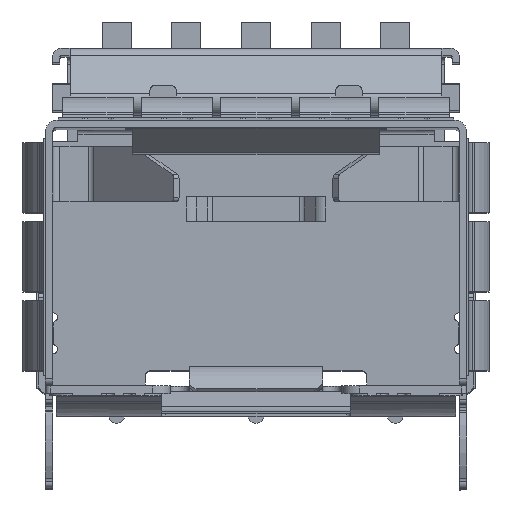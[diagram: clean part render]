
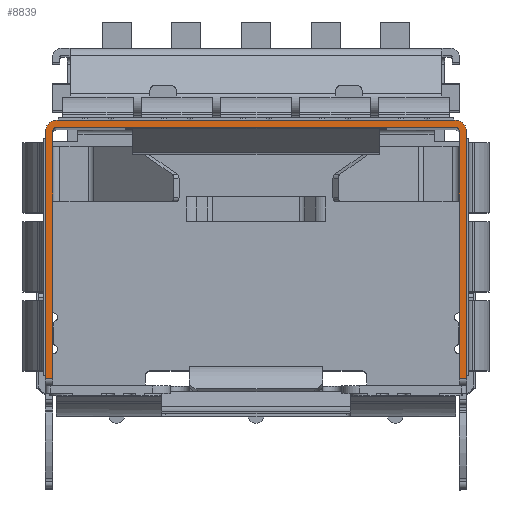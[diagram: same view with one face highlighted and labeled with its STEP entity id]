
A CAD part, top view. The second image highlights one B-rep face of the part: STEP entity #8839.
In plain terms, the highlighted planar face has unit normal (0, 0, 1).
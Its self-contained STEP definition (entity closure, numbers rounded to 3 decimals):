
#655 = VECTOR ( 'NONE', #7140, 1000. ) ;
#1107 = EDGE_CURVE ( 'NONE', #32797, #42645, #12612, .T. ) ;
#1381 = DIRECTION ( 'NONE',  ( -1., 0., 0. ) ) ;
#1951 = LINE ( 'NONE', #31659, #655 ) ;
#3791 = VERTEX_POINT ( 'NONE', #32556 ) ;
#3858 = EDGE_CURVE ( 'NONE', #17567, #15961, #24549, .T. ) ;
#4867 = CIRCLE ( 'NONE', #9479, 0.4 ) ;
#4969 = CARTESIAN_POINT ( 'NONE',  ( 6.85, -0.15, 0. ) ) ;
#5623 = CARTESIAN_POINT ( 'NONE',  ( -7.25, -8.65, 0. ) ) ;
#7140 = DIRECTION ( 'NONE',  ( 1., 0., 0. ) ) ;
#7651 = CARTESIAN_POINT ( 'NONE',  ( -6.85, 0., 0. ) ) ;
#8506 = CARTESIAN_POINT ( 'NONE',  ( -6.85, 0.25, 0. ) ) ;
#8653 = DIRECTION ( 'NONE',  ( 1., 0., 0. ) ) ;
#8663 = DIRECTION ( 'NONE',  ( 0., 0., 1. ) ) ;
#8839 = ADVANCED_FACE ( 'NONE', ( #20970 ), #9026, .T. ) ;
#9026 = PLANE ( 'NONE',  #44874 ) ;
#9034 = CARTESIAN_POINT ( 'NONE',  ( -93.397, -0.15, 0. ) ) ;
#9131 = DIRECTION ( 'NONE',  ( 1., 0., 0. ) ) ;
#9213 = VECTOR ( 'NONE', #49891, 1000. ) ;
#9427 = LINE ( 'NONE', #16465, #49112 ) ;
#9479 = AXIS2_PLACEMENT_3D ( 'NONE', #4969, #33671, #9131 ) ;
#10634 = ORIENTED_EDGE ( 'NONE', *, *, #19246, .T. ) ;
#11080 = CARTESIAN_POINT ( 'NONE',  ( 7.25, -0.15, 0. ) ) ;
#11690 = CIRCLE ( 'NONE', #20043, 0.15 ) ;
#12596 = CARTESIAN_POINT ( 'NONE',  ( -7., -8.65, 0. ) ) ;
#12612 = CIRCLE ( 'NONE', #51480, 0.4 ) ;
#12774 = VERTEX_POINT ( 'NONE', #25278 ) ;
#13222 = VERTEX_POINT ( 'NONE', #7651 ) ;
#14696 = ORIENTED_EDGE ( 'NONE', *, *, #21972, .T. ) ;
#15238 = VERTEX_POINT ( 'NONE', #12596 ) ;
#15961 = VERTEX_POINT ( 'NONE', #40070 ) ;
#16465 = CARTESIAN_POINT ( 'NONE',  ( -7., -8.9, 0. ) ) ;
#16658 = AXIS2_PLACEMENT_3D ( 'NONE', #25024, #24963, #24951 ) ;
#17549 = EDGE_CURVE ( 'NONE', #42645, #32972, #18882, .T. ) ;
#17567 = VERTEX_POINT ( 'NONE', #49720 ) ;
#18882 = LINE ( 'NONE', #50057, #9213 ) ;
#19243 = LINE ( 'NONE', #30131, #28753 ) ;
#19246 = EDGE_CURVE ( 'NONE', #3791, #30713, #32079, .T. ) ;
#20043 = AXIS2_PLACEMENT_3D ( 'NONE', #22617, #51194, #26684 ) ;
#20400 = DIRECTION ( 'NONE',  ( 0., -1., 0. ) ) ;
#20649 = ORIENTED_EDGE ( 'NONE', *, *, #31886, .T. ) ;
#20970 = FACE_OUTER_BOUND ( 'NONE', #28582, .T. ) ;
#21229 = VECTOR ( 'NONE', #46446, 1000. ) ;
#21972 = EDGE_CURVE ( 'NONE', #30713, #27685, #4867, .T. ) ;
#22617 = CARTESIAN_POINT ( 'NONE',  ( -6.85, -0.15, 0. ) ) ;
#22715 = DIRECTION ( 'NONE',  ( -1., 0., 0. ) ) ;
#24549 = CIRCLE ( 'NONE', #16658, 0.15 ) ;
#24951 = DIRECTION ( 'NONE',  ( 1., 0., 0. ) ) ;
#24963 = DIRECTION ( 'NONE',  ( 0., 0., -1. ) ) ;
#25024 = CARTESIAN_POINT ( 'NONE',  ( 6.85, -0.15, 0. ) ) ;
#25278 = CARTESIAN_POINT ( 'NONE',  ( -7., -0.15, 0. ) ) ;
#26639 = ORIENTED_EDGE ( 'NONE', *, *, #29275, .F. ) ;
#26684 = DIRECTION ( 'NONE',  ( -1., 0., 0. ) ) ;
#27027 = DIRECTION ( 'NONE',  ( -1., 0., 0. ) ) ;
#27221 = ORIENTED_EDGE ( 'NONE', *, *, #30550, .F. ) ;
#27685 = VERTEX_POINT ( 'NONE', #38948 ) ;
#28582 = EDGE_LOOP ( 'NONE', ( #10634, #14696, #44201, #41422, #42549, #39217, #26639, #20649, #47687, #42858, #27221, #30788 ) ) ;
#28603 = CARTESIAN_POINT ( 'NONE',  ( -7.25, -0.15, 0. ) ) ;
#28753 = VECTOR ( 'NONE', #1381, 1000. ) ;
#29275 = EDGE_CURVE ( 'NONE', #12774, #15238, #9427, .T. ) ;
#30131 = CARTESIAN_POINT ( 'NONE',  ( 93.397, -8.65, 0. ) ) ;
#30550 = EDGE_CURVE ( 'NONE', #32553, #15961, #50224, .T. ) ;
#30713 = VERTEX_POINT ( 'NONE', #11080 ) ;
#30788 = ORIENTED_EDGE ( 'NONE', *, *, #44625, .T. ) ;
#31659 = CARTESIAN_POINT ( 'NONE',  ( -93.397, -8.65, 0. ) ) ;
#31886 = EDGE_CURVE ( 'NONE', #12774, #13222, #11690, .T. ) ;
#32079 = LINE ( 'NONE', #48277, #21229 ) ;
#32553 = VERTEX_POINT ( 'NONE', #43599 ) ;
#32556 = CARTESIAN_POINT ( 'NONE',  ( 7.25, -8.65, 0. ) ) ;
#32797 = VERTEX_POINT ( 'NONE', #8506 ) ;
#32972 = VERTEX_POINT ( 'NONE', #5623 ) ;
#33671 = DIRECTION ( 'NONE',  ( 0., 0., 1. ) ) ;
#34510 = VECTOR ( 'NONE', #22715, 1000. ) ;
#35091 = CARTESIAN_POINT ( 'NONE',  ( -6.85, 0.25, 0. ) ) ;
#36984 = VECTOR ( 'NONE', #27027, 1000. ) ;
#38112 = CARTESIAN_POINT ( 'NONE',  ( 7., -0.15, 0. ) ) ;
#38249 = LINE ( 'NONE', #35091, #36984 ) ;
#38948 = CARTESIAN_POINT ( 'NONE',  ( 6.85, 0.25, 0. ) ) ;
#38966 = CARTESIAN_POINT ( 'NONE',  ( -6.85, 0., 0. ) ) ;
#39217 = ORIENTED_EDGE ( 'NONE', *, *, #46942, .F. ) ;
#39357 = VECTOR ( 'NONE', #50438, 1000. ) ;
#39984 = DIRECTION ( 'NONE',  ( -1., 0., 0. ) ) ;
#40070 = CARTESIAN_POINT ( 'NONE',  ( 7., -0.15, 0. ) ) ;
#40083 = DIRECTION ( 'NONE',  ( 0., 0., 1. ) ) ;
#40091 = CARTESIAN_POINT ( 'NONE',  ( -6.85, -0.15, 0. ) ) ;
#40904 = EDGE_CURVE ( 'NONE', #27685, #32797, #38249, .T. ) ;
#41422 = ORIENTED_EDGE ( 'NONE', *, *, #1107, .T. ) ;
#42549 = ORIENTED_EDGE ( 'NONE', *, *, #17549, .T. ) ;
#42645 = VERTEX_POINT ( 'NONE', #28603 ) ;
#42858 = ORIENTED_EDGE ( 'NONE', *, *, #3858, .T. ) ;
#43599 = CARTESIAN_POINT ( 'NONE',  ( 7., -8.65, 0. ) ) ;
#44201 = ORIENTED_EDGE ( 'NONE', *, *, #40904, .T. ) ;
#44625 = EDGE_CURVE ( 'NONE', #32553, #3791, #1951, .T. ) ;
#44874 = AXIS2_PLACEMENT_3D ( 'NONE', #9034, #8663, #8653 ) ;
#46446 = DIRECTION ( 'NONE',  ( 0., 1., 0. ) ) ;
#46637 = LINE ( 'NONE', #38966, #34510 ) ;
#46942 = EDGE_CURVE ( 'NONE', #15238, #32972, #19243, .T. ) ;
#47687 = ORIENTED_EDGE ( 'NONE', *, *, #50915, .F. ) ;
#48277 = CARTESIAN_POINT ( 'NONE',  ( 7.25, -0.15, 0. ) ) ;
#49112 = VECTOR ( 'NONE', #20400, 1000. ) ;
#49720 = CARTESIAN_POINT ( 'NONE',  ( 6.85, 0., 0. ) ) ;
#49891 = DIRECTION ( 'NONE',  ( 0., -1., 0. ) ) ;
#50057 = CARTESIAN_POINT ( 'NONE',  ( -7.25, -8.9, 0. ) ) ;
#50224 = LINE ( 'NONE', #38112, #39357 ) ;
#50438 = DIRECTION ( 'NONE',  ( 0., 1., 0. ) ) ;
#50915 = EDGE_CURVE ( 'NONE', #17567, #13222, #46637, .T. ) ;
#51194 = DIRECTION ( 'NONE',  ( 0., 0., -1. ) ) ;
#51480 = AXIS2_PLACEMENT_3D ( 'NONE', #40091, #40083, #39984 ) ;
